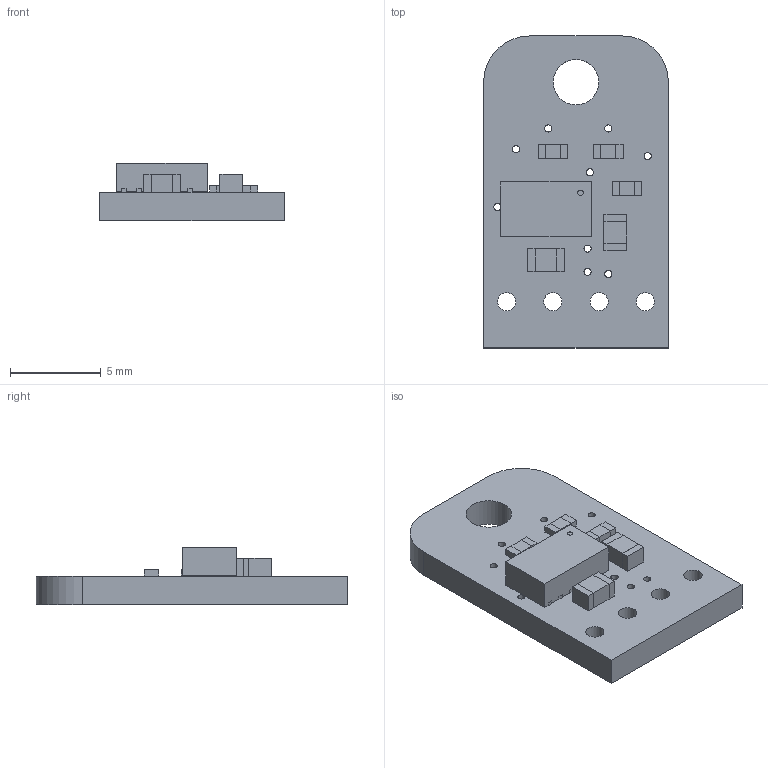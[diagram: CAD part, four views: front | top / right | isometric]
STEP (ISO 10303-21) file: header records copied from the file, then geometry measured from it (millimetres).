
FILE_DESCRIPTION(/* description */ (''),/* implementation_level */ '2;1');
FILE_NAME(/* name */ 'PCB Component.step',/* time_stamp */ '2023-06-12T09:37:55-04:00',/* author */ (''),/* organization */ (''),/* preprocessor_version */ 'ST-DEVELOPER v19.2',/* originating_system */ 'Autodesk Translation Framework v12.6.0.85',/* authorisation */ '');
FILE_SCHEMA (('AUTOMOTIVE_DESIGN { 1 0 10303 214 3 1 1 }'));
Length unit declared in the file: millimetre
Products named in the file (5): PCB Component; Board; 22uF; 24K; MPM3610
Assembly tree (7 placements, depth 2):
  PCB Component
    Board
    22uF  x2
    24K  x3
    MPM3610
Bounding box: 10.16 x 17.14 x 3.17 mm (x, y, z)
Volume: 285 mm3; surface area: 568.9 mm2
Topology: 23 solids, 23 shells, 364 faces, 945 edges, 630 vertices
Faces by surface type: plane 279, cylinder 85
Full cylindrical faces by diameter (mm): 0.3 x1, 0.394 x9, 1 x4, 2.5 x1
Entity records: 10137 total; most frequent: CARTESIAN_POINT 1729, DIRECTION 1675, ORIENTED_EDGE 1674, EDGE_CURVE 837, LINE 667, VECTOR 667, VERTEX_POINT 558, AXIS2_PLACEMENT_3D 504
